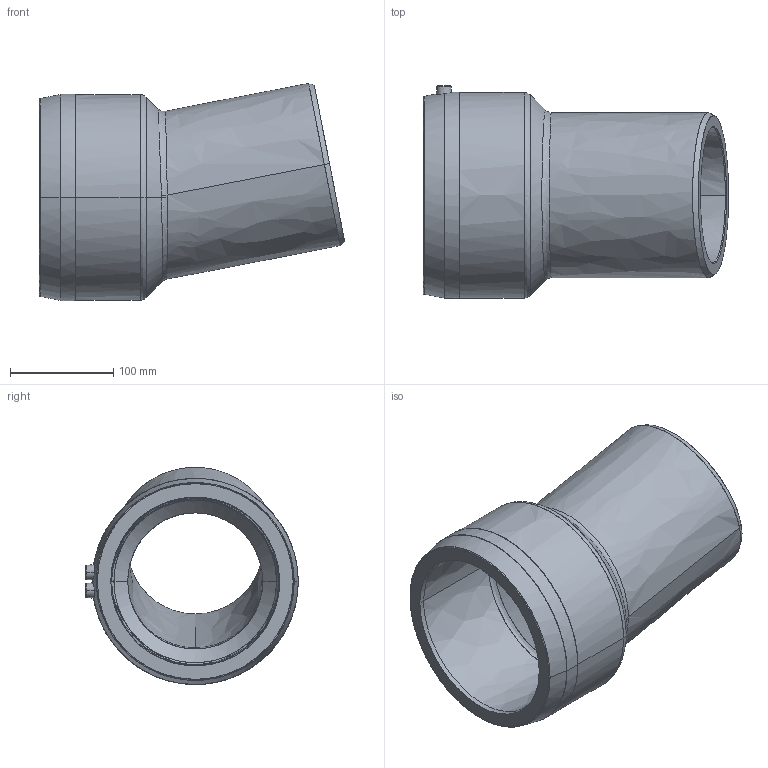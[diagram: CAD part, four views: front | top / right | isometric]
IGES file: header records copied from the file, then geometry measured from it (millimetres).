
Start section:  PTC IGES file: ws11_d160.igs
Global section: file name: ws11_d160.igs; native system: Pro/ENGINEER by Parametric Technology Corporation; preprocessor: 2011490; author: mtunjic; organization: Unknown; date: 20130807.141814; units: millimetre
Bounding box: 295.6 x 205.85 x 210.19 mm (x, y, z)
Surface area: 304192 mm2 (no closed solid volume)
Topology: 0 solids, 0 shells, 173 faces, 880 edges, 878 vertices
Faces by surface type: bspline 173
